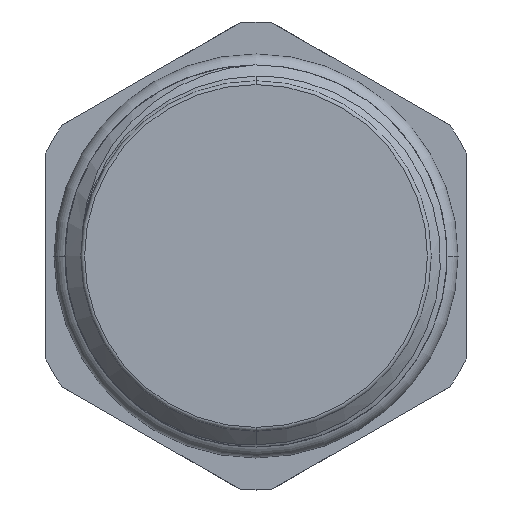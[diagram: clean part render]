
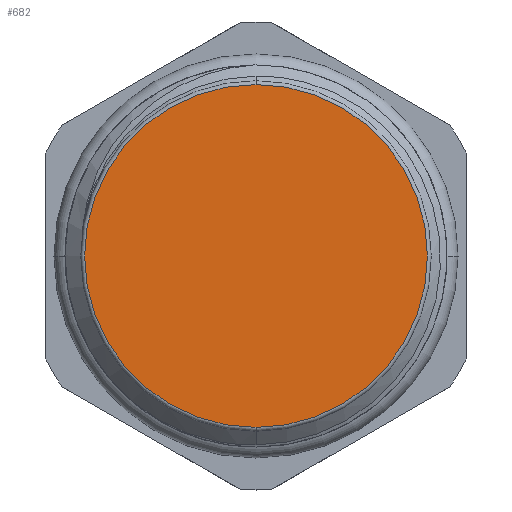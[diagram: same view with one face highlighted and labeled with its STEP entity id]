
A CAD part, front view. The second image highlights one B-rep face of the part: STEP entity #682.
In plain terms, the highlighted planar face has unit normal (0, -1, 0).
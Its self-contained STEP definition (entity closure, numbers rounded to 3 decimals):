
#214 = ORIENTED_EDGE ( 'NONE', *, *, #3404, .T. ) ;
#390 = AXIS2_PLACEMENT_3D ( 'NONE', #3435, #3275, #2300 ) ;
#682 = ADVANCED_FACE ( 'NONE', ( #2445 ), #2143, .F. ) ;
#817 = AXIS2_PLACEMENT_3D ( 'NONE', #2806, #2856, #1295 ) ;
#880 = VERTEX_POINT ( 'NONE', #3219 ) ;
#939 = EDGE_CURVE ( 'NONE', #1805, #880, #2238, .T. ) ;
#1061 = AXIS2_PLACEMENT_3D ( 'NONE', #2583, #2661, #3117 ) ;
#1295 = DIRECTION ( 'NONE',  ( 0., 0., 1. ) ) ;
#1302 = ORIENTED_EDGE ( 'NONE', *, *, #939, .T. ) ;
#1805 = VERTEX_POINT ( 'NONE', #2699 ) ;
#2143 = PLANE ( 'NONE',  #1061 ) ;
#2238 = CIRCLE ( 'NONE', #817, 8.975 ) ;
#2300 = DIRECTION ( 'NONE',  ( 0., 0., 1. ) ) ;
#2445 = FACE_OUTER_BOUND ( 'NONE', #3290, .T. ) ;
#2583 = CARTESIAN_POINT ( 'NONE',  ( 12.494, -7.074, 24.5 ) ) ;
#2661 = DIRECTION ( 'NONE',  ( 0., 1., 0. ) ) ;
#2699 = CARTESIAN_POINT ( 'NONE',  ( 3.319, -7.074, 33.475 ) ) ;
#2806 = CARTESIAN_POINT ( 'NONE',  ( 3.319, -7.074, 24.5 ) ) ;
#2856 = DIRECTION ( 'NONE',  ( 0., -1., 0. ) ) ;
#2870 = CIRCLE ( 'NONE', #390, 8.975 ) ;
#3117 = DIRECTION ( 'NONE',  ( 0., 0., 1. ) ) ;
#3219 = CARTESIAN_POINT ( 'NONE',  ( 3.319, -7.074, 15.525 ) ) ;
#3275 = DIRECTION ( 'NONE',  ( 0., -1., 0. ) ) ;
#3290 = EDGE_LOOP ( 'NONE', ( #1302, #214 ) ) ;
#3404 = EDGE_CURVE ( 'NONE', #880, #1805, #2870, .T. ) ;
#3435 = CARTESIAN_POINT ( 'NONE',  ( 3.319, -7.074, 24.5 ) ) ;
